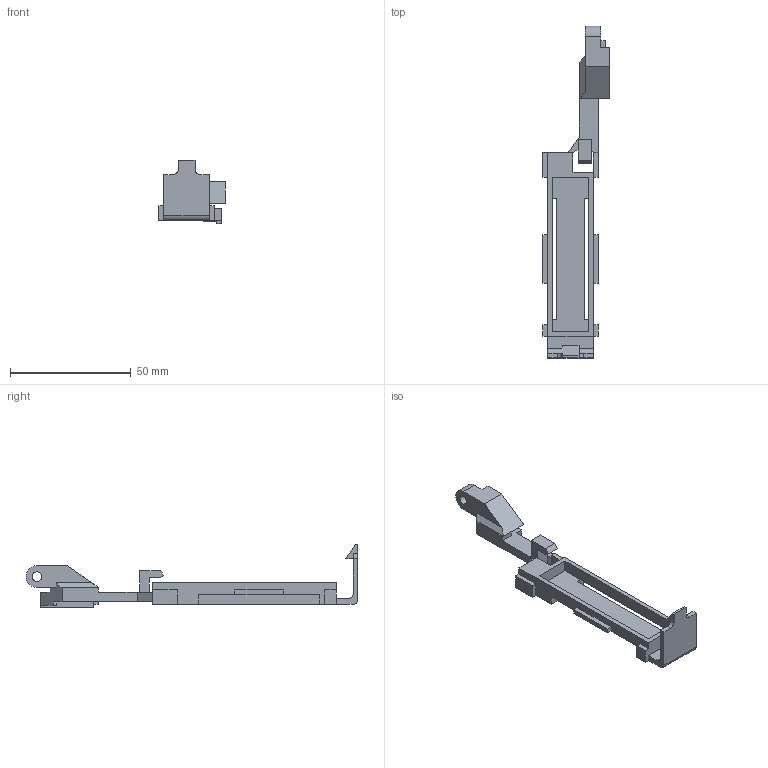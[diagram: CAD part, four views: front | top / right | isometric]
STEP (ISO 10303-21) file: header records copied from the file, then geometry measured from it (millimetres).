
FILE_DESCRIPTION (( 'STEP AP203' ), '1' );
FILE_NAME ('Piece Capote Jaguar 421-09-810.STEP', '2021-04-07T08:51:51', ( '' ), ( '' ), 'SwSTEP 2.0', 'SolidWorks 2016', '' );
FILE_SCHEMA (( 'CONFIG_CONTROL_DESIGN' ));
Length unit declared in the file: millimetre
Products named in the file (1): Piece  Capote Jaguar 421-09-810
Bounding box: 27.5 x 137.6 x 26.5 mm (x, y, z)
Volume: 9901.3 mm3; surface area: 10082.6 mm2
Topology: 1 solids, 1 shells, 125 faces, 366 edges, 239 vertices
Faces by surface type: plane 118, cylinder 7
Entity records: 4147 total; most frequent: ORIENTED_EDGE 732, CARTESIAN_POINT 731, DIRECTION 632, EDGE_CURVE 366, LINE 352, VECTOR 352, VERTEX_POINT 239, AXIS2_PLACEMENT_3D 140
